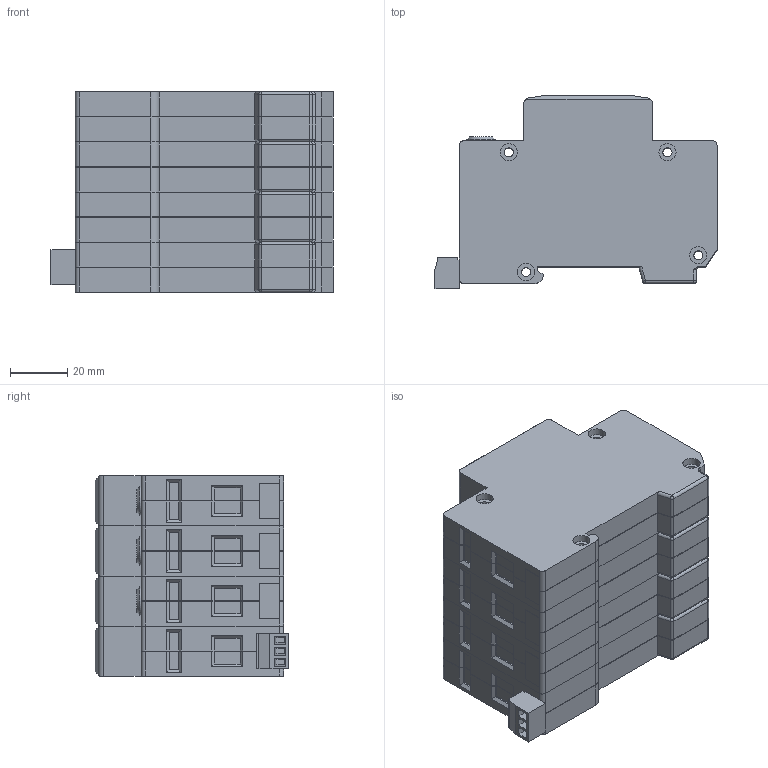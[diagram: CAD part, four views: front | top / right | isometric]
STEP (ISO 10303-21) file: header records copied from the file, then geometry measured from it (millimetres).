
FILE_DESCRIPTION(/* description */ (''),/* implementation_level */ '2;1');
FILE_NAME(/* name */ 'K:\PROJEKTY ROZPRACOVANÉ\MODELY DO KATALOGU\HSA, HLSA 24520, 10007\3D - STEP\H 3+1 S.stp',/* time_stamp */ '2022-04-01T08:11:32+02:00',/* author */ ('miko'),/* organization */ (''),/* preprocessor_version */ 'ST-DEVELOPER v18.1',/* originating_system */ 'Autodesk Inventor 2022',/* authorisation */ '');
FILE_SCHEMA (('AUTOMOTIVE_DESIGN { 1 0 10303 214 3 1 1 }'));
Length unit declared in the file: millimetre
Products named in the file (12): H 3+1 S; HSA S; HSA S_1; KONEKTOR DEGSON 15EDGK 3.81; KONEKTOR SAMEC; ISO 2009 - M1,6 x 2,5; KONEKTOR DEGSON 15EDGRC 3.81 (OBRÁCENÉ VÝV
ODY); HGDT (Z); HGDT (Z)_1; HSA (Z); HSA (Z)_1; DIN 7985 (H) - M5x6-H
Assembly tree (17 placements, depth 4):
  H 3+1 S
    HSA S
      HSA S_1
      DIN 7985 (H) - M5x6-H  x2
      KONEKTOR DEGSON 15EDGK 3.81
        KONEKTOR SAMEC
        ISO 2009 - M1,6 x 2,5  x3
      KONEKTOR DEGSON 15EDGRC 3.81 (OBRÁCENÉ VÝV
ODY)
    HGDT (Z)
      HGDT (Z)_1
      DIN 7985 (H) - M5x6-H
    HSA (Z)  x2
      HSA (Z)_1
      DIN 7985 (H) - M5x6-H
Bounding box: 98.5 x 67.6 x 70 mm (x, y, z)
Volume: 338923.1 mm3; surface area: 73691 mm2
Topology: 14 solids, 14 shells, 1339 faces, 3545 edges, 2309 vertices
Faces by surface type: plane 976, cylinder 223, cone 100, sphere 21, torus 19
Full cylindrical faces by diameter (mm): 0.968 x3, 1 x6, 1.171 x3, 1.6 x3, 1.9 x3, 2 x3, 2.5 x3, 3.2 x16, 4.6 x5, 5 x5, 6 x32, 10 x3
Entity records: 28992 total; most frequent: CARTESIAN_POINT 5096, ORIENTED_EDGE 4906, DIRECTION 4773, EDGE_CURVE 2453, LINE 1995, VECTOR 1995, VERTEX_POINT 1596, AXIS2_PLACEMENT_3D 1389
